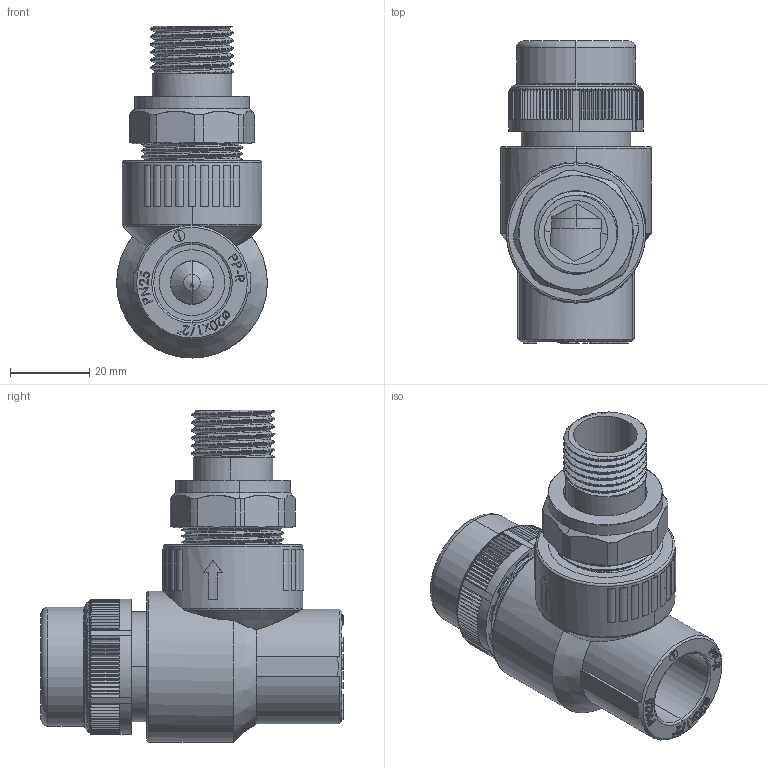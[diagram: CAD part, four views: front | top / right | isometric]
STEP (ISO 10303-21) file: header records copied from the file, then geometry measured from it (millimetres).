
FILE_DESCRIPTION (( 'STEP AP203' ), '1' );
FILE_NAME ('PKT02_ASM.STEP', '2022-08-23T09:50:26', ( '' ), ( '' ), 'SwSTEP 2.0', 'SolidWorks 2021', '' );
FILE_SCHEMA (( 'CONFIG_CONTROL_DESIGN' ));
Length unit declared in the file: millimetre
Products named in the file (9): PKT02_ASM; VPKT02_valve; NPKT02_nut; PLPKT02; GPKT02_gasket; CPKT02_cap; 30PKT02_ incert M30; 1_2UNNKP02; 1_2INPKT02
Assembly tree (8 placements, depth 2):
  PKT02_ASM
    PLPKT02
    30PKT02_ incert M30
    1_2INPKT02
    1_2UNNKP02
    CPKT02_cap
    NPKT02_nut
    VPKT02_valve
    GPKT02_gasket
Bounding box: 38 x 76.22 x 83.74 mm (x, y, z)
Volume: 68012.4 mm3; surface area: 44032.8 mm2
Topology: 8 solids, 8 shells, 2306 faces, 6528 edges, 4333 vertices
Faces by surface type: plane 1366, cylinder 427, torus 239, cone 137, bspline 137
Entity records: 91607 total; most frequent: CARTESIAN_POINT 36092, ORIENTED_EDGE 13052, DIRECTION 9266, EDGE_CURVE 6526, VERTEX_POINT 4333, AXIS2_PLACEMENT_3D 3319, VECTOR 2628, LINE 2628
